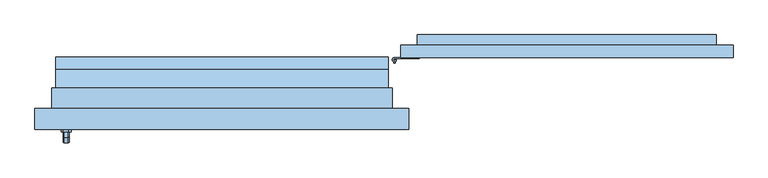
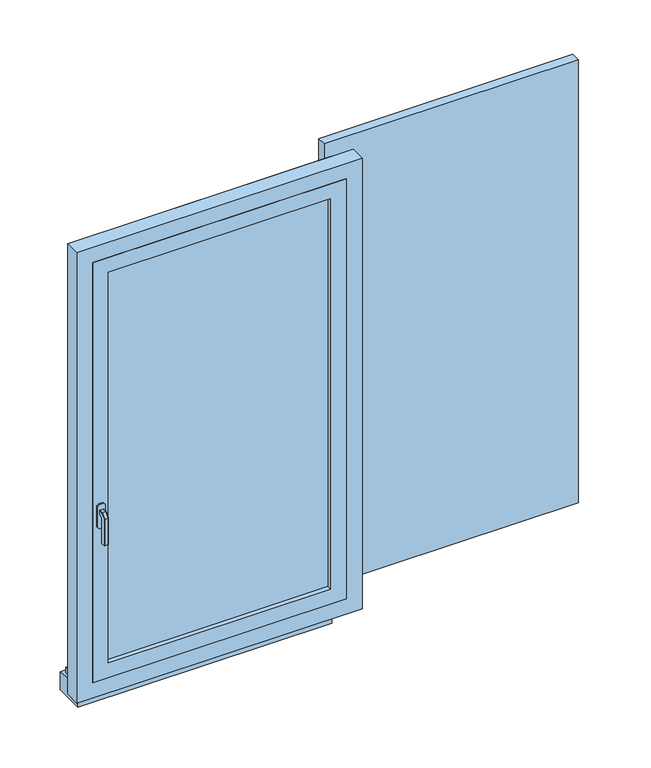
"""IFC4 building model written with IfcOpenShell, lengths in millimetres: window geometry, 1 Vantail droit - Volet et petits bois : 0.80m x 1.45m - Appui Béton."""

import ifcopenshell
import ifcopenshell.guid

model = None  # the IFC model being written
_history = None  # IfcOwnerHistory: only IFC2X3 demands one
_inside = {}  # id of a spatial element -> (the spatial element, [elements in it])
_under = {}  # id of a project, library or spatial element -> (it, [spatial elements below it])
_declared = {}  # id of a project -> (the project, [libraries it declares])
_typed = {}  # id of a type object -> (the type object, [elements of that type])
_made_of = {}  # id of a material, layer set ... -> (it, [elements and type objects made of it])


def new_model(schema):
    """Start an empty IFC model of exactly this schema.

    Asked for "IFC4X3", IfcOpenShell would pick the latest addendum, in which some entities
    have other attributes; the version numbers below select the first issue.
    IFC2X3 requires an IfcOwnerHistory on every rooted entity: one is made here for all.
    """
    global model, _history
    if schema == "IFC4X3":
        model = ifcopenshell.file(schema_version=(4, 3, 0, 0))
    else:
        model = ifcopenshell.file(schema=schema)
    _inside.clear()
    _under.clear()
    _declared.clear()
    _typed.clear()
    _made_of.clear()
    _history = None
    if model.schema == "IFC2X3":
        org = make("IfcOrganization", Name="unknown")
        user = make(
            "IfcPersonAndOrganization",
            ThePerson=make("IfcPerson", FamilyName="unknown"),
            TheOrganization=org,
        )
        app = make(
            "IfcApplication",
            ApplicationDeveloper=org,
            Version="unknown",
            ApplicationFullName="unknown",
            ApplicationIdentifier="unknown",
        )
        _history = make(
            "IfcOwnerHistory",
            OwningUser=user,
            OwningApplication=app,
            ChangeAction="ADDED",
            CreationDate=0,
        )
    return model


def make(cls, **values):
    """One entity of the class cls with the attributes given. An attribute that is None is left unset."""
    return model.create_entity(
        cls, **{name: value for name, value in values.items() if value is not None}
    )


def rooted(cls, **values):
    """An entity with a GlobalId (a new one), such as an element, a storey or a relation."""
    return make(cls, GlobalId=ifcopenshell.guid.new(), OwnerHistory=_history, **values)


def si_unit(unit_type, name, prefix=None):
    """IfcSIUnit, for example si_unit("LENGTHUNIT", "METRE", prefix="MILLI")."""
    return make("IfcSIUnit", UnitType=unit_type, Prefix=prefix, Name=name)


def assignment(units):
    """IfcUnitAssignment: the units of a project."""
    return None if units is None else make("IfcUnitAssignment", Units=units)


def point(xyz):
    """IfcCartesianPoint."""
    return None if xyz is None else make("IfcCartesianPoint", Coordinates=xyz)


def direction(xyz):
    """IfcDirection."""
    return None if xyz is None else make("IfcDirection", DirectionRatios=xyz)


def frame(location, z_axis=None, x_axis=None):
    """IfcAxis2Placement3D, a coordinate frame: its origin and axes. An axis left out is left unset."""
    return make(
        "IfcAxis2Placement3D",
        Location=point(location),
        Axis=direction(z_axis),
        RefDirection=direction(x_axis),
    )


def frame_2d(location, x_axis=None):
    """IfcAxis2Placement2D, a coordinate frame in the plane: its origin and x axis."""
    return make(
        "IfcAxis2Placement2D", Location=point(location), RefDirection=direction(x_axis)
    )


def origin():
    """The frame at (0, 0, 0) with its axes left unset."""
    return frame((0.0, 0.0, 0.0))


def place(relative_to, where):
    """IfcLocalPlacement: puts the frame where relative to a parent placement (None: the world)."""
    return make(
        "IfcLocalPlacement", PlacementRelTo=relative_to, RelativePlacement=where
    )


def context(
    kind, dimensions, precision=None, world=None, true_north=None, identifier=None
):
    """IfcGeometricRepresentationContext, for example the 3D "Model" context."""
    return make(
        "IfcGeometricRepresentationContext",
        ContextIdentifier=identifier,
        ContextType=kind,
        CoordinateSpaceDimension=dimensions,
        Precision=precision,
        WorldCoordinateSystem=world,
        TrueNorth=true_north,
    )


def project(units=None, contexts=None):
    """IfcProject with its units and contexts."""
    return rooted(
        "IfcProject",
        Name="project",
        RepresentationContexts=contexts,
        UnitsInContext=assignment(units),
    )


def spatial(cls, under=None, at=None, **own):
    """A site, building, storey or space (cls), placed at a placement, below another one or the project."""
    s = rooted(cls, ObjectPlacement=at, **own)
    if under is not None:
        _under.setdefault(under.id(), (under, []))[1].append(s)
    return s


def polyline(points):
    """IfcPolyline through the points."""
    return make("IfcPolyline", Points=[point(p) for p in points])


def circle_curve(where, radius):
    """IfcCircle in the frame where."""
    return make("IfcCircle", Position=where, Radius=radius)


def trimmed(basis, trim1, trim2, sense, master):
    """IfcTrimmedCurve: the piece of a basis curve between two trims."""
    return make(
        "IfcTrimmedCurve",
        BasisCurve=basis,
        Trim1=trim1,
        Trim2=trim2,
        SenseAgreement=sense,
        MasterRepresentation=master,
    )


def segment(curve, same_sense, transition):
    """IfcCompositeCurveSegment."""
    return make(
        "IfcCompositeCurveSegment",
        Transition=transition,
        SameSense=same_sense,
        ParentCurve=curve,
    )


def composite_curve(segments, self_intersect=None):
    """IfcCompositeCurve: segments joined end to end."""
    return make("IfcCompositeCurve", Segments=segments, SelfIntersect=self_intersect)


def outline(outer, holes=None, kind="AREA"):
    """IfcArbitraryClosedProfileDef: a profile drawn as a closed curve; with holes, ...WithVoids."""
    if holes is None:
        return make("IfcArbitraryClosedProfileDef", ProfileType=kind, OuterCurve=outer)
    return make(
        "IfcArbitraryProfileDefWithVoids",
        ProfileType=kind,
        OuterCurve=outer,
        InnerCurves=holes,
    )


def extrude(swept, where, along, depth):
    """IfcExtrudedAreaSolid: the profile swept, set in the frame where, extruded along a direction by depth."""
    return make(
        "IfcExtrudedAreaSolid",
        SweptArea=swept,
        Position=where,
        ExtrudedDirection=direction(along),
        Depth=depth,
    )


def faces_of(points, faces, orient=None, outer=None):
    """IfcFace entities. A face is a list of loops; a loop is a list of indices into points, from 0.

    orient and outer hold one flag for each loop. By default every Orientation is true, the
    first loop of a face is its IfcFaceOuterBound and the others are IfcFaceBound.
    """
    made = []
    for i, loops in enumerate(faces):
        bounds = []
        for j, loop in enumerate(loops):
            is_outer = j == 0 if outer is None else outer[i][j]
            bounds.append(
                make(
                    "IfcFaceOuterBound" if is_outer else "IfcFaceBound",
                    Bound=make("IfcPolyLoop", Polygon=[points[k] for k in loop]),
                    Orientation=True if orient is None else orient[i][j],
                )
            )
        made.append(make("IfcFace", Bounds=bounds))
    return made


def faceted_brep(points, faces, orient=None, outer=None, voids=None):
    """IfcFacetedBrep: a solid bounded by flat faces; with voids (closed shells), ...WithVoids."""
    shared = [point(p) for p in points]
    hull = make("IfcClosedShell", CfsFaces=faces_of(shared, faces, orient, outer))
    if voids is None:
        return make("IfcFacetedBrep", Outer=hull)
    return make(
        "IfcFacetedBrepWithVoids",
        Outer=hull,
        Voids=[
            make(cls, CfsFaces=faces_of(shared, fs, o, b)) for cls, fs, o, b in voids
        ],
    )


def shape(context_of_items, identifier, shape_type, items):
    """IfcShapeRepresentation: the items that make up one representation, for example the "Body"."""
    return make(
        "IfcShapeRepresentation",
        ContextOfItems=context_of_items,
        RepresentationIdentifier=identifier,
        RepresentationType=shape_type,
        Items=items,
    )


def source(mapping_origin, context_of_items, identifier, shape_type, items):
    """IfcRepresentationMap: a shape defined once, which mapped items show again and again."""
    return make(
        "IfcRepresentationMap",
        MappingOrigin=mapping_origin,
        MappedRepresentation=shape(context_of_items, identifier, shape_type, items),
    )


def transform(
    local_origin,
    x_axis=None,
    y_axis=None,
    z_axis=None,
    scale=None,
    scale2=None,
    scale3=None,
    uniform=True,
):
    """IfcCartesianTransformationOperator3D, or its non-uniform kind. x_axis, y_axis, z_axis: its Axis1, 2, 3."""
    if uniform:
        return make(
            "IfcCartesianTransformationOperator3D",
            Axis1=direction(x_axis),
            Axis2=direction(y_axis),
            LocalOrigin=point(local_origin),
            Scale=scale,
            Axis3=direction(z_axis),
        )
    return make(
        "IfcCartesianTransformationOperator3DnonUniform",
        Axis1=direction(x_axis),
        Axis2=direction(y_axis),
        LocalOrigin=point(local_origin),
        Scale=scale,
        Axis3=direction(z_axis),
        Scale2=scale2,
        Scale3=scale3,
    )


def mapped(mapping_source, mapping_target):
    """IfcMappedItem: shows the shape of a source again, moved by a transform."""
    return make(
        "IfcMappedItem", MappingSource=mapping_source, MappingTarget=mapping_target
    )


def made_of(thing, what):
    """Note that an element or type object is made of a material, layer set ...; save() writes the relation."""
    if what is not None:
        _made_of.setdefault(what.id(), (what, []))[1].append(thing)
    return thing


def element(
    cls,
    number,
    at=None,
    inside=None,
    cuts=None,
    type_object=None,
    material=None,
    context=None,
    identifier="Body",
    shape_type=None,
    held_by="IfcProductDefinitionShape",
    body=None,
    shapes=None,
    **own,
):
    """One element of the class cls, such as IfcWall. Its Tag is "e" and its number.

    at: its placement. inside: the storey or other place that contains it. cuts: it is an
    opening in that element (IfcRelVoidsElement). A single representation is given by context,
    identifier, shape_type and body (its items); several are given by shapes. held_by: the class
    of the entity that holds the representations. save() writes the other relations.
    """
    e = rooted(cls, Tag="e%d" % number, ObjectPlacement=at, **own)
    if body is not None:
        shapes = [shape(context, identifier, shape_type, body)]
    if shapes is not None:
        e.Representation = make(held_by, Representations=shapes)
    if inside is not None:
        _inside.setdefault(inside.id(), (inside, []))[1].append(e)
    if cuts is not None:
        rooted(
            "IfcRelVoidsElement", RelatingBuildingElement=cuts, RelatedOpeningElement=e
        )
    if type_object is not None:
        _typed.setdefault(type_object.id(), (type_object, []))[1].append(e)
    return made_of(e, material)


def aggregate(whole, parts):
    """IfcRelAggregates: a whole, such as a stair, and the parts it consists of."""
    return rooted("IfcRelAggregates", RelatingObject=whole, RelatedObjects=parts)


def save(model, path):
    """Write the relations noted so far, then the file.

    IfcRelAggregates (storeys below a building ...), IfcRelContainedInSpatialStructure (elements
    in a storey), IfcRelDefinesByType, IfcRelAssociatesMaterial and IfcRelDeclares: one each for
    every whole, place, type object, material and project.
    """
    for whole, parts in _under.values():
        aggregate(whole, parts)
    for where, things in _inside.values():
        rooted(
            "IfcRelContainedInSpatialStructure",
            RelatedElements=things,
            RelatingStructure=where,
        )
    for kind, things in _typed.values():
        rooted("IfcRelDefinesByType", RelatedObjects=things, RelatingType=kind)
    for what, things in _made_of.values():
        rooted("IfcRelAssociatesMaterial", RelatedObjects=things, RelatingMaterial=what)
    for by, libraries in _declared.values():
        rooted("IfcRelDeclares", RelatingContext=by, RelatedDefinitions=libraries)
    model.write(path)


def plane_surface(at):
    """IfcPlane: the flat surface through the origin of the frame at, square to its z axis."""
    return make("IfcPlane", Position=at)


def cylinder_surface(at, radius):
    """IfcCylindricalSurface: all points at the distance radius from the z axis of the frame at."""
    return make("IfcCylindricalSurface", Position=at, Radius=radius)


def advanced_brep(points, edges, surfaces, faces):
    """IfcAdvancedBrep: a solid bounded by faces that lie on surfaces and meet in shared edges.

    An edge is (start, end): straight between two places in points (the first is 0);
    or (start, end, curve); or (start, end, curve, False) where it runs against its curve.
    A face is (place in surfaces, loops), or (place, loops, False) where it looks against
    its surface's normal. A loop lists edges by number (the first is 1), with a minus sign
    where the edge is run from its end to its start. The first loop is the outer one.
    """
    corners = [point(p) for p in points]
    vertices = [make("IfcVertexPoint", VertexGeometry=c) for c in corners]
    made = []
    for start, end, *more in edges:
        made.append(
            make(
                "IfcEdgeCurve",
                EdgeStart=vertices[start],
                EdgeEnd=vertices[end],
                EdgeGeometry=more[0] if more else make("IfcPolyline", Points=[corners[start], corners[end]]),
                SameSense=more[1] if len(more) > 1 else True,
            )
        )
    hull = []
    for where, loops, *sense in faces:
        bounds = []
        for j, loop in enumerate(loops):
            ring = [make("IfcOrientedEdge", EdgeElement=made[abs(k) - 1], Orientation=k > 0) for k in loop]
            bounds.append(
                make(
                    "IfcFaceOuterBound" if j == 0 else "IfcFaceBound",
                    Bound=make("IfcEdgeLoop", EdgeList=ring),
                    Orientation=True,
                )
            )
        hull.append(make("IfcAdvancedFace", Bounds=bounds, FaceSurface=surfaces[where], SameSense=sense[0] if sense else True))
    return make("IfcAdvancedBrep", Outer=make("IfcClosedShell", CfsFaces=hull))


def window_e9bb7084(model_context):
    return source(origin(), model_context, "Body", "SolidModel", [
        extrude(outline(polyline([(1230.0, 93.0), (430.0, 93.0), (430.0, 123.0), (1230.0, 123.0), (1230.0, 93.0)])), frame((0.0, 0.0, 775.0), z_axis=(0.0, 0.0, 1.0), x_axis=(1.0, 0.0, 0.0)), (0.0, 0.0, 1.0), 1475.0),
        advanced_brep(
        [(410.0, 88.0, 975.0), (420.0, 88.0, 975.0), (410.0, 88.0, 950.0), (420.0, 88.0, 950.0), (417.0, 83.4174243, 955.0), (413.0, 83.4174243, 955.0), (413.0, 83.4174243, 965.0), (417.0, 83.4174243, 965.0), (413.0, 80.0, 965.0), (417.0, 80.0, 965.0), (417.0, 80.0, 955.0), (413.0, 80.0, 955.0)],
        [
            (0, 1, circle_curve(frame((415.0, 88.0, 975.0), z_axis=(0.0, 0.0, 1.0), x_axis=(1.0, 0.0, 0.0)), 5.0)),
            (1, 0, circle_curve(frame((415.0, 88.0, 975.0), z_axis=(0.0, 0.0, 1.0), x_axis=(1.0, 0.0, 0.0)), 5.0)),
            (2, 3, circle_curve(frame((415.0, 88.0, 950.0), z_axis=(0.0, 0.0, -1.0), x_axis=(1.0, 0.0, 0.0)), 5.0)),
            (3, 2, circle_curve(frame((415.0, 88.0, 950.0), z_axis=(0.0, 0.0, -1.0), x_axis=(1.0, 0.0, 0.0)), 5.0)),
            (0, 2),
            (3, 1),
            (4, 5, circle_curve(frame((415.0, 88.0, 955.0), z_axis=(0.0, 0.0, -1.0), x_axis=(1.0, 0.0, 0.0)), 5.0)),
            (5, 6),
            (6, 7, circle_curve(frame((415.0, 88.0, 965.0), z_axis=(0.0, 0.0, 1.0), x_axis=(1.0, 0.0, 0.0)), 5.0)),
            (7, 4),
            (8, 9),
            (9, 7),
            (6, 8),
            (10, 11),
            (11, 5),
            (4, 10),
            (9, 10),
            (11, 8),
        ],
        [
            plane_surface(frame((420.0, 88.0, 975.0), z_axis=(0.0, 0.0, 1.0), x_axis=(0.0, 1.0, 0.0))),
            plane_surface(frame((420.0, 88.0, 950.0), z_axis=(0.0, 0.0, -1.0), x_axis=(0.0, -1.0, 0.0))),
            cylinder_surface(frame((415.0, 88.0, 950.0), z_axis=(0.0, 0.0, 1.0), x_axis=(1.0, 0.0, 0.0)), 5.0),
            plane_surface(frame((417.0, 80.0, 965.0), z_axis=(0.0, 0.0, 1.0), x_axis=(0.0, 1.0, 0.0))),
            plane_surface(frame((417.0, 80.0, 955.0), z_axis=(0.0, 0.0, -1.0), x_axis=(0.0, -1.0, 0.0))),
            plane_surface(frame((417.0, 80.0, 965.0), z_axis=(1.0, 0.0, 0.0), x_axis=(0.0, 0.0, -1.0))),
            plane_surface(frame((413.0, 85.0, 965.0), z_axis=(-1.0, 0.0, 0.0), x_axis=(0.0, 0.0, -1.0))),
            plane_surface(frame((413.0, 80.0, 965.0), z_axis=(0.0, -1.0, 0.0), x_axis=(0.0, 0.0, -1.0))),
        ],
        [
            (0, [[1, 2]]),
            (1, [[3, 4]]),
            (2, [[-1, 5, -4, 6], [7, 8, 9, 10]]),
            (2, [[-2, -6, -3, -5]]),
            (3, [[11, 12, -9, 13]]),
            (4, [[14, 15, -7, 16]]),
            (5, [[17, -16, -10, -12]]),
            (6, [[18, -13, -8, -15]]),
            (7, [[-11, -18, -14, -17]]),
        ],
    ),
        extrude(outline(composite_curve([segment(polyline([(415.0, 93.0), (474.3092325, 93.0), (474.3092325, 90.5), (415.0, 90.5)]), True, "CONTINUOUS"), segment(trimmed(circle_curve(frame_2d((415.0, 88.0)), 2.5), [point((415.0, 90.5))], [point((417.5, 88.0))], True, "CARTESIAN"), True, "CONTINUOUS"), segment(polyline([(417.5, 88.0), (420.0, 88.0)]), True, "CONTINUOUS"), segment(trimmed(circle_curve(frame_2d((415.0, 88.0)), 5.0), [point((420.0, 88.0))], [point((415.0, 93.0))], False, "CARTESIAN"), True, "CONTINUOUS")], self_intersect=False)), frame((0.0, 0.0, 975.0), z_axis=(0.0, 0.0, 1.0), x_axis=(1.0, 0.0, 0.0)), (0.0, 0.0, 1.0), 25.0),
        extrude(outline(composite_curve([segment(trimmed(circle_curve(frame_2d((415.0, 88.0)), 2.5), [point((412.5, 88.0))], [point((417.5, 88.0))], False, "CARTESIAN"), True, "CONTINUOUS"), segment(trimmed(circle_curve(frame_2d((415.0, 88.0)), 2.5), [point((417.5, 88.0))], [point((412.5, 88.0))], False, "CARTESIAN"), True, "CONTINUOUS")], self_intersect=False)), frame((0.0, 0.0, 975.0), z_axis=(0.0, 0.0, 1.0), x_axis=(1.0, 0.0, 0.0)), (0.0, 0.0, 1.0), 25.0),
        advanced_brep(
        [(410.0, 88.0, 2050.0), (420.0, 88.0, 2050.0), (410.0, 88.0, 2025.0), (420.0, 88.0, 2025.0), (413.0, 83.4174243, 2040.0), (417.0, 83.4174243, 2040.0), (417.0, 83.4174243, 2030.0), (413.0, 83.4174243, 2030.0), (413.0, 80.0, 2040.0), (417.0, 80.0, 2040.0), (413.0, 80.0, 2030.0), (417.0, 80.0, 2030.0)],
        [
            (0, 1, circle_curve(frame((415.0, 88.0, 2050.0), z_axis=(0.0, 0.0, 1.0), x_axis=(1.0, 0.0, 0.0)), 5.0)),
            (1, 0, circle_curve(frame((415.0, 88.0, 2050.0), z_axis=(0.0, 0.0, 1.0), x_axis=(1.0, 0.0, 0.0)), 5.0)),
            (2, 3, circle_curve(frame((415.0, 88.0, 2025.0), z_axis=(0.0, 0.0, -1.0), x_axis=(1.0, 0.0, 0.0)), 5.0)),
            (3, 2, circle_curve(frame((415.0, 88.0, 2025.0), z_axis=(0.0, 0.0, -1.0), x_axis=(1.0, 0.0, 0.0)), 5.0)),
            (0, 2),
            (3, 1),
            (4, 5, circle_curve(frame((415.0, 88.0, 2040.0), z_axis=(0.0, 0.0, 1.0), x_axis=(1.0, 0.0, 0.0)), 5.0)),
            (5, 6),
            (6, 7, circle_curve(frame((415.0, 88.0, 2030.0), z_axis=(0.0, 0.0, -1.0), x_axis=(1.0, 0.0, 0.0)), 5.0)),
            (7, 4),
            (8, 9),
            (9, 5),
            (4, 8),
            (10, 7),
            (6, 11),
            (11, 10),
            (8, 10),
            (11, 9),
        ],
        [
            plane_surface(frame((420.0, 88.0, 2050.0), z_axis=(0.0, 0.0, 1.0), x_axis=(0.0, 1.0, 0.0))),
            plane_surface(frame((420.0, 88.0, 2025.0), z_axis=(0.0, 0.0, -1.0), x_axis=(0.0, -1.0, 0.0))),
            cylinder_surface(frame((415.0, 88.0, 2025.0), z_axis=(0.0, 0.0, 1.0), x_axis=(1.0, 0.0, 0.0)), 5.0),
            plane_surface(frame((413.0, 80.0, 2040.0), z_axis=(0.0, 0.0, 1.0), x_axis=(1.0, 0.0, 0.0))),
            plane_surface(frame((413.0, 80.0, 2030.0), z_axis=(0.0, 0.0, -1.0), x_axis=(-1.0, 0.0, 0.0))),
            plane_surface(frame((413.0, 80.0, 2040.0), z_axis=(0.0, -1.0, 0.0), x_axis=(0.0, 0.0, -1.0))),
            plane_surface(frame((417.0, 80.0, 2040.0), z_axis=(1.0, 0.0, 0.0), x_axis=(0.0, 0.0, -1.0))),
            plane_surface(frame((413.0, 83.4174243, 2040.0), z_axis=(-1.0, 0.0, 0.0), x_axis=(0.0, 0.0, -1.0))),
        ],
        [
            (0, [[1, 2]]),
            (1, [[3, 4]]),
            (2, [[-1, 5, -4, 6], [7, 8, 9, 10]]),
            (2, [[-2, -6, -3, -5]]),
            (3, [[11, 12, -7, 13]]),
            (4, [[14, -9, 15, 16]]),
            (5, [[-11, 17, -16, 18]]),
            (6, [[-12, -18, -15, -8]]),
            (7, [[-13, -10, -14, -17]]),
        ],
    ),
        extrude(outline(polyline([(413.0, 80.0), (413.0, 83.4174243), (417.0, 83.4174243), (417.0, 80.0), (413.0, 80.0)])), frame((0.0, 0.0, 1492.5), z_axis=(0.0, 0.0, 1.0), x_axis=(1.0, 0.0, 0.0)), (0.0, 0.0, 1.0), 10.0),
        extrude(outline(composite_curve([segment(polyline([(415.0, 93.0), (474.3092325, 93.0), (474.3092325, 90.5), (415.0, 90.5)]), True, "CONTINUOUS"), segment(trimmed(circle_curve(frame_2d((415.0, 88.0)), 2.5), [point((415.0, 90.5))], [point((412.5, 88.0))], True, "CARTESIAN"), True, "CONTINUOUS"), segment(trimmed(circle_curve(frame_2d((415.0, 88.0)), 2.5), [point((412.5, 88.0))], [point((417.5, 88.0))], True, "CARTESIAN"), True, "CONTINUOUS"), segment(polyline([(417.5, 88.0), (420.0, 88.0)]), True, "CONTINUOUS"), segment(trimmed(circle_curve(frame_2d((415.0, 88.0)), 5.0), [point((420.0, 88.0))], [point((415.0, 93.0))], False, "CARTESIAN"), True, "CONTINUOUS")], self_intersect=False)), frame((0.0, 0.0, 1512.5), z_axis=(0.0, 0.0, 1.0), x_axis=(1.0, 0.0, 0.0)), (0.0, 0.0, 1.0), 25.0),
        extrude(outline(composite_curve([segment(trimmed(circle_curve(frame_2d((415.0, 88.0)), 2.5), [point((412.5, 88.0))], [point((417.5, 88.0))], False, "CARTESIAN"), True, "CONTINUOUS"), segment(trimmed(circle_curve(frame_2d((415.0, 88.0)), 2.5), [point((417.5, 88.0))], [point((412.5, 88.0))], False, "CARTESIAN"), True, "CONTINUOUS")], self_intersect=False)), frame((0.0, 0.0, 1512.5), z_axis=(0.0, 0.0, 1.0), x_axis=(1.0, 0.0, 0.0)), (0.0, 0.0, 1.0), 25.0),
        extrude(outline(composite_curve([segment(trimmed(circle_curve(frame_2d((415.0, 88.0)), 5.0), [point((410.0, 88.0))], [point((420.0, 88.0))], False, "CARTESIAN"), True, "CONTINUOUS"), segment(trimmed(circle_curve(frame_2d((415.0, 88.0)), 5.0), [point((420.0, 88.0))], [point((410.0, 88.0))], False, "CARTESIAN"), True, "CONTINUOUS")], self_intersect=False)), frame((0.0, 0.0, 1487.5), z_axis=(0.0, 0.0, 1.0), x_axis=(1.0, 0.0, 0.0)), (0.0, 0.0, 1.0), 25.0),
        extrude(outline(composite_curve([segment(polyline([(415.0, 93.0), (474.3092325, 93.0), (474.3092325, 90.5), (415.0, 90.5)]), True, "CONTINUOUS"), segment(trimmed(circle_curve(frame_2d((415.0, 88.0)), 2.5), [point((415.0, 90.5))], [point((417.5, 88.0))], True, "CARTESIAN"), True, "CONTINUOUS"), segment(polyline([(417.5, 88.0), (420.0, 88.0)]), True, "CONTINUOUS"), segment(trimmed(circle_curve(frame_2d((415.0, 88.0)), 5.0), [point((420.0, 88.0))], [point((415.0, 93.0))], False, "CARTESIAN"), True, "CONTINUOUS")], self_intersect=False)), frame((0.0, 0.0, 2050.0), z_axis=(0.0, 0.0, 1.0), x_axis=(1.0, 0.0, 0.0)), (0.0, 0.0, 1.0), 25.0),
        extrude(outline(composite_curve([segment(trimmed(circle_curve(frame_2d((415.0, 88.0)), 2.5), [point((412.5, 88.0))], [point((417.5, 88.0))], False, "CARTESIAN"), True, "CONTINUOUS"), segment(trimmed(circle_curve(frame_2d((415.0, 88.0)), 2.5), [point((417.5, 88.0))], [point((412.5, 88.0))], False, "CARTESIAN"), True, "CONTINUOUS")], self_intersect=False)), frame((0.0, 0.0, 2050.0), z_axis=(0.0, 0.0, 1.0), x_axis=(1.0, 0.0, 0.0)), (0.0, 0.0, 1.0), 25.0),
        extrude(outline(polyline([(2010.0, 1190.0), (2010.0, 1095.5052018), (1015.0, 470.0007252), (1015.0, 564.4955234), (2010.0, 1190.0)])), frame((0.0, 123.0, 0.0), z_axis=(0.0, 1.0, 0.0), x_axis=(0.0, 0.0, 1.0)), (0.0, 0.0, 1.0), 25.0),
        extrude(outline(polyline([(470.0, 148.0), (1190.0, 148.0), (1190.0, 123.0), (470.0, 123.0), (470.0, 148.0)])), frame((0.0, 0.0, 2010.0), z_axis=(0.0, 0.0, 1.0), x_axis=(1.0, 0.0, 0.0)), (0.0, 0.0, 1.0), 80.0),
        extrude(outline(polyline([(470.0, 148.0), (1190.0, 148.0), (1190.0, 123.0), (470.0, 123.0), (470.0, 148.0)])), frame((0.0, 0.0, 935.0), z_axis=(0.0, 0.0, 1.0), x_axis=(1.0, 0.0, 0.0)), (0.0, 0.0, 1.0), 80.0),
        faceted_brep([(-369.3539903, -86.0, 1422.0339292), (-367.9660708, -86.0, 1420.6460097), (-367.9660708, -86.0, 1409.3323012), (-369.3323012, -86.0, 1407.9660708), (-380.6676988, -86.0, 1407.9660708), (-382.0339292, -86.0, 1409.3323012), (-382.0339292, -86.0, 1420.6460097), (-380.6460097, -86.0, 1422.0339292), (-369.3539903, -98.9135489, 1422.0339292), (-367.9660708, -98.3386538, 1420.6460097), (-367.9660708, -111.6460097, 1407.3386538), (-367.9660708, -111.6460097, 1320.0), (-367.9660708, -100.3323012, 1320.0), (-367.9660708, -100.3323012, 1402.6523623), (-367.9660708, -93.6523623, 1409.3323012), (-369.3323012, -93.0864511, 1407.9660708), (-380.6676988, -93.0864511, 1407.9660708), (-382.0339292, -93.6523623, 1409.3323012), (-382.0339292, -100.3323012, 1402.6523623), (-382.0339292, -100.3323012, 1320.0), (-382.0339292, -111.6460097, 1320.0), (-382.0339292, -111.6460097, 1407.3386538), (-382.0339292, -98.3386538, 1420.6460097), (-380.6460097, -98.9135489, 1422.0339292), (-369.3539903, -113.0339292, 1407.9135489), (-369.3323012, -98.9660708, 1402.0864511), (-380.6676988, -98.9660708, 1402.0864511), (-380.6460097, -113.0339292, 1407.9135489), (-369.3539903, -113.0339292, 1320.0), (-380.6460097, -113.0339292, 1320.0), (-380.6676988, -98.9660708, 1320.0), (-369.3323012, -98.9660708, 1320.0)], [[[0, 1, 2, 3, 4, 5, 6, 7]], [[1, 0, 8, 9]], [[2, 1, 9, 10, 11, 12, 13, 14]], [[3, 2, 14, 15]], [[4, 3, 15, 16]], [[5, 4, 16, 17]], [[6, 5, 17, 18, 19, 20, 21, 22]], [[7, 6, 22, 23]], [[0, 7, 23, 8]], [[9, 8, 24, 10]], [[15, 14, 13, 25]], [[16, 15, 25, 26]], [[17, 16, 26, 18]], [[23, 22, 21, 27]], [[8, 23, 27, 24]], [[28, 29, 20, 19, 30, 31, 12, 11]], [[10, 24, 28, 11]], [[25, 13, 12, 31]], [[26, 25, 31, 30]], [[18, 26, 30, 19]], [[27, 21, 20, 29]], [[24, 27, 29, 28]]]),
        extrude(outline(polyline([(1440.0, -368.0), (1440.0, -382.0), (1435.0, -387.0), (1365.0, -387.0), (1360.0, -382.0), (1360.0, -368.0), (1365.0, -363.0), (1435.0, -363.0), (1440.0, -368.0)])), frame((0.0, -86.0, 0.0), z_axis=(0.0, 1.0, 0.0), x_axis=(0.0, 0.0, 1.0)), (0.0, 0.0, 1.0), 6.0),
        extrude(outline(polyline([(0.0, 800.0), (50.0, 800.0), (50.0, 785.0), (95.0, 780.2703094), (95.0, 720.0), (0.0, 720.0), (0.0, 800.0)])), frame((-400.0, 0.0, 0.0), z_axis=(1.0, 0.0, 0.0), x_axis=(0.0, 1.0, 0.0)), (0.0, 0.0, 1.0), 800.0),
        extrude(outline(polyline([(-350.0, -54.0), (350.0, -54.0), (350.0, -66.0), (-350.0, -66.0), (-350.0, -54.0)])), frame((0.0, 0.0, 900.0), z_axis=(0.0, 0.0, 1.0), x_axis=(1.0, 0.0, 0.0)), (0.0, 0.0, 1.0), 1300.0),
        extrude(outline(polyline([(850.0, 400.0), (2250.0, 400.0), (2250.0, -400.0), (850.0, -400.0), (850.0, 400.0)]), holes=[polyline([(900.0, -350.0), (2200.0, -350.0), (2200.0, 350.0), (900.0, 350.0), (900.0, -350.0)])]), frame((0.0, -80.0, 0.0), z_axis=(0.0, 1.0, 0.0), x_axis=(0.0, 0.0, 1.0)), (0.0, 0.0, 1.0), 40.0),
        faceted_brep([(-450.0, -80.0, 800.0), (-450.0, -30.0, 800.0), (-400.0, -30.0, 800.0), (-400.0, 55.0, 800.0), (400.0, 55.0, 800.0), (400.0, -30.0, 800.0), (450.0, -30.0, 800.0), (450.0, -80.0, 800.0), (-450.0, -80.0, 2300.0), (-450.0, -30.0, 2300.0), (450.0, -30.0, 2300.0), (400.0, -30.0, 839.3761425), (-400.0, -30.0, 839.3761425), (-385.0, -30.0, 2235.0), (-385.0, -30.0, 865.0), (385.0, -30.0, 865.0), (385.0, -30.0, 2235.0), (-400.0, 65.0, 813.9209692), (-400.0, 65.0, 795.0), (-400.0, 55.0, 795.0), (400.0, 55.0, 795.0), (400.0, 65.0, 795.0), (400.0, 65.0, 813.9209692), (450.0, -80.0, 2300.0), (400.0, -80.0, 2250.0), (400.0, -80.0, 850.0), (-400.0, -80.0, 850.0), (-400.0, -80.0, 2250.0), (-385.0, -40.0, 2235.0), (-385.0, -40.0, 865.0), (385.0, -40.0, 865.0), (385.0, -40.0, 2235.0), (400.0, -40.0, 2250.0), (-400.0, -40.0, 2250.0), (-400.0, -40.0, 850.0), (400.0, -40.0, 850.0)], [[[0, 1, 2, 3, 4, 5, 6, 7]], [[1, 0, 8, 9]], [[1, 9, 10, 6, 5, 11, 12, 2], [13, 14, 15, 16]], [[12, 17, 18, 19, 3, 2]], [[3, 19, 20, 4]], [[4, 20, 21, 22, 11, 5]], [[6, 10, 23, 7]], [[0, 7, 23, 8], [24, 25, 26, 27]], [[13, 28, 29, 14]], [[29, 30, 15, 14]], [[31, 16, 15, 30]], [[17, 12, 11, 22]], [[32, 33, 34, 35], [28, 31, 30, 29]], [[34, 33, 27, 26]], [[26, 25, 35, 34]], [[24, 32, 35, 25]], [[18, 17, 22, 21]], [[19, 18, 21, 20]], [[13, 16, 31, 28]], [[33, 32, 24, 27]], [[10, 9, 8, 23]]]),
        extrude(outline(polyline([(800.0, -410.0), (800.0, -400.0), (2250.0, -400.0), (2250.0, 400.0), (800.0, 400.0), (800.0, 410.0), (2260.0, 410.0), (2260.0, -410.0), (800.0, -410.0)])), frame((0.0, -30.0, 0.0), z_axis=(0.0, 1.0, 0.0), x_axis=(0.0, 0.0, 1.0)), (0.0, 0.0, 1.0), 50.0),
    ])


if __name__ == "__main__":
    model = new_model("IFC4")
    model_context = context("Model", 3, world=origin())
    ifc_project = project(units=[si_unit("LENGTHUNIT", "METRE", prefix="MILLI")], contexts=[model_context])
    site = spatial("IfcSite", under=ifc_project)
    building = spatial("IfcBuilding", under=site)
    placement = place(None, origin())
    window_shape = window_e9bb7084(model_context)
    element("IfcWindow", 1, ObjectType="1 Vantail droit - Volet et petits bois : 0.80m x 1.45m - Appui Béton", at=placement, inside=building, context=model_context, shape_type="MappedRepresentation", body=[
        mapped(window_shape, transform((0.0, 0.0, 0.0), x_axis=(1.0, 0.0, 0.0), y_axis=(0.0, 1.0, 0.0), z_axis=(0.0, 0.0, 1.0))),
    ])
    save(model, "model.ifc")
